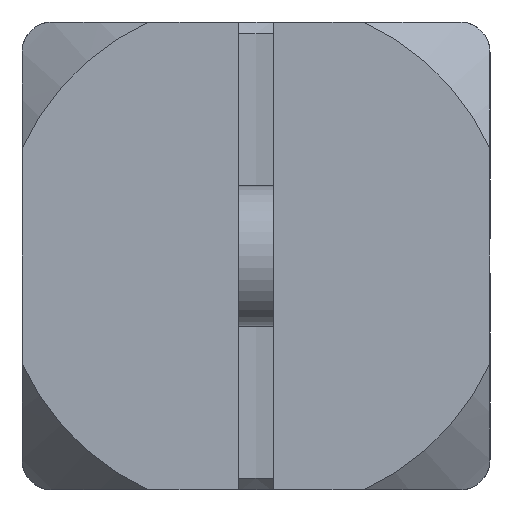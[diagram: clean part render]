
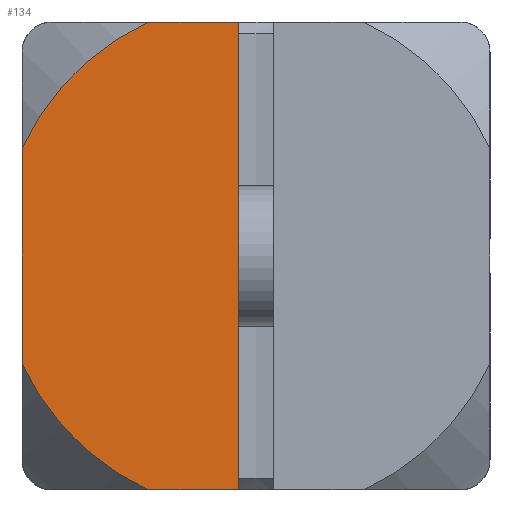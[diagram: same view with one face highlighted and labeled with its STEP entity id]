
A CAD part, left-side view. The second image highlights one B-rep face of the part: STEP entity #134.
In plain terms, the highlighted planar face has unit normal (-1, 0, 0).
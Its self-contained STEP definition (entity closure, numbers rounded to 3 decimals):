
#134 = ADVANCED_FACE( '', ( #325 ), #326, .F. );
#325 = FACE_OUTER_BOUND( '', #565, .T. );
#326 = PLANE( '', #566 );
#565 = EDGE_LOOP( '', ( #1130, #1131, #1132, #1133, #1134, #1135 ) );
#566 = AXIS2_PLACEMENT_3D( '', #1136, #1137, #1138 );
#1130 = ORIENTED_EDGE( '', *, *, #1705, .F. );
#1131 = ORIENTED_EDGE( '', *, *, #1706, .F. );
#1132 = ORIENTED_EDGE( '', *, *, #1699, .F. );
#1133 = ORIENTED_EDGE( '', *, *, #1586, .T. );
#1134 = ORIENTED_EDGE( '', *, *, #1696, .F. );
#1135 = ORIENTED_EDGE( '', *, *, #1673, .T. );
#1136 = CARTESIAN_POINT( '', ( -20.5, 10., 10. ) );
#1137 = DIRECTION( '', ( 1., 0., 0. ) );
#1138 = DIRECTION( '', ( 0., 0., -1. ) );
#1586 = EDGE_CURVE( '', #1924, #1922, #1925, .T. );
#1673 = EDGE_CURVE( '', #2078, #2076, #2079, .T. );
#1696 = EDGE_CURVE( '', #2078, #1922, #2114, .T. );
#1699 = EDGE_CURVE( '', #1924, #2115, #2119, .T. );
#1705 = EDGE_CURVE( '', #2127, #2076, #2128, .T. );
#1706 = EDGE_CURVE( '', #2115, #2127, #2129, .T. );
#1922 = VERTEX_POINT( '', #2523 );
#1924 = VERTEX_POINT( '', #2530 );
#1925 = LINE( '', #2531, #2532 );
#2076 = VERTEX_POINT( '', #2759 );
#2078 = VERTEX_POINT( '', #2762 );
#2079 = LINE( '', #2763, #2764 );
#2114 = CIRCLE( '', #2853, 11. );
#2115 = VERTEX_POINT( '', #2854 );
#2119 = CIRCLE( '', #2874, 11. );
#2127 = VERTEX_POINT( '', #2900 );
#2128 = LINE( '', #2901, #2902 );
#2129 = LINE( '', #2903, #2904 );
#2523 = CARTESIAN_POINT( '', ( -20.5, 10., -4.583 ) );
#2530 = CARTESIAN_POINT( '', ( -20.5, 10., 4.583 ) );
#2531 = CARTESIAN_POINT( '', ( -20.5, 10., 10. ) );
#2532 = VECTOR( '', #3153, 1000. );
#2759 = CARTESIAN_POINT( '', ( -20.5, 0.75, -10. ) );
#2762 = CARTESIAN_POINT( '', ( -20.5, 4.583, -10. ) );
#2763 = CARTESIAN_POINT( '', ( -20.5, 10., -10. ) );
#2764 = VECTOR( '', #3293, 1000. );
#2853 = AXIS2_PLACEMENT_3D( '', #3325, #3326, #3327 );
#2854 = CARTESIAN_POINT( '', ( -20.5, 4.583, 10. ) );
#2874 = AXIS2_PLACEMENT_3D( '', #3328, #3329, #3330 );
#2900 = CARTESIAN_POINT( '', ( -20.5, 0.75, 10. ) );
#2901 = CARTESIAN_POINT( '', ( -20.5, 0.75, 10. ) );
#2902 = VECTOR( '', #3336, 1000. );
#2903 = CARTESIAN_POINT( '', ( -20.5, 10., 10. ) );
#2904 = VECTOR( '', #3337, 1000. );
#3153 = DIRECTION( '', ( 0., 0., -1. ) );
#3293 = DIRECTION( '', ( 0., -1., 0. ) );
#3325 = CARTESIAN_POINT( '', ( -20.5, 0., 0. ) );
#3326 = DIRECTION( '', ( 1., 0., 0. ) );
#3327 = DIRECTION( '', ( 0., 0., -1. ) );
#3328 = CARTESIAN_POINT( '', ( -20.5, 0., 0. ) );
#3329 = DIRECTION( '', ( 1., 0., 0. ) );
#3330 = DIRECTION( '', ( 0., 0., -1. ) );
#3336 = DIRECTION( '', ( 0., 0., -1. ) );
#3337 = DIRECTION( '', ( 0., -1., 0. ) );
